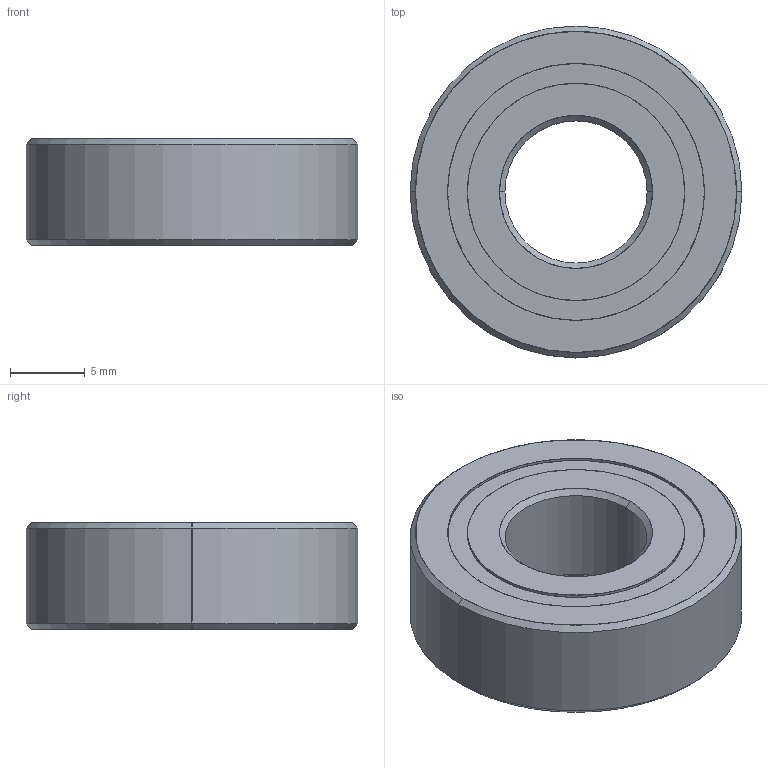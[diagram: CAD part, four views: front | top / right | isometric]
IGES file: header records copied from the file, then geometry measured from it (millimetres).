
Start section: SolidWorks IGES file using analytic representation for surfaces
Global section: file name: C:\Users\Bud\Documents\GitHub\telemetry\Hardware\Masthead hardware\IGES\bearing- McM 60355K703.IGS; native system: SolidWorks 2011; preprocessor: SolidWorks 2011; author: Bud; date: 131225.212116; units: inch
Bounding box: 22.23 x 22.23 x 7.14 mm (x, y, z)
Surface area: 2941.3 mm2 (no closed solid volume)
Topology: 0 solids, 0 shells, 62 faces, 728 edges, 688 vertices
Faces by surface type: revolution 48, bspline 14
